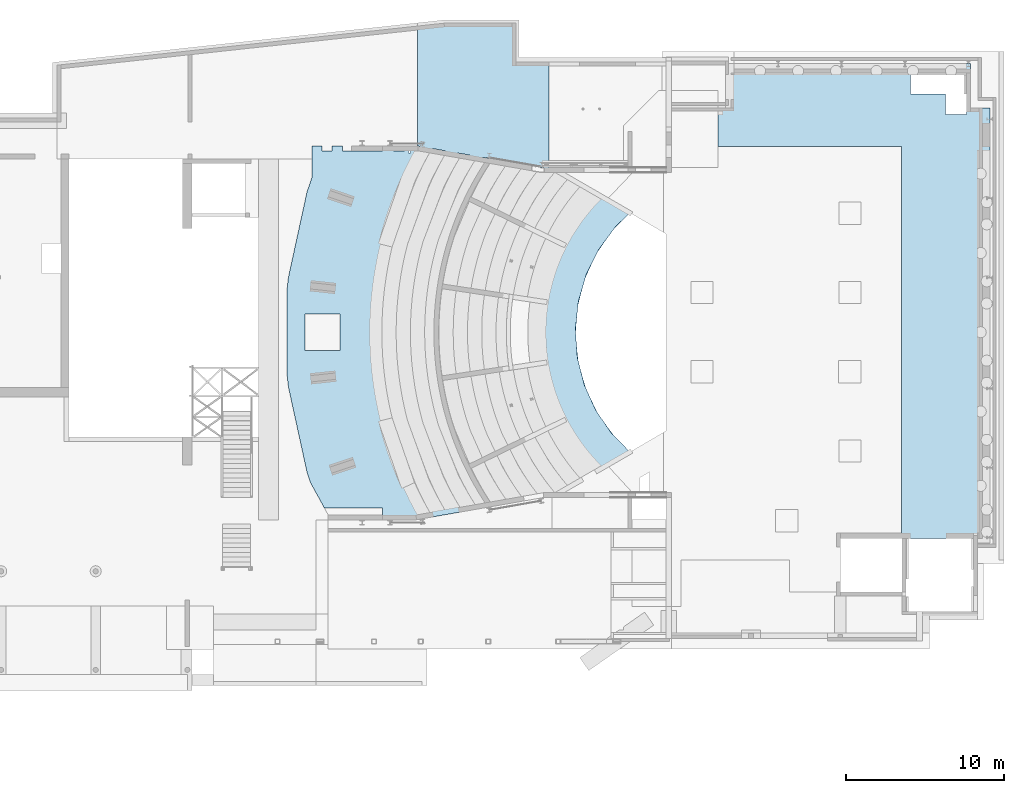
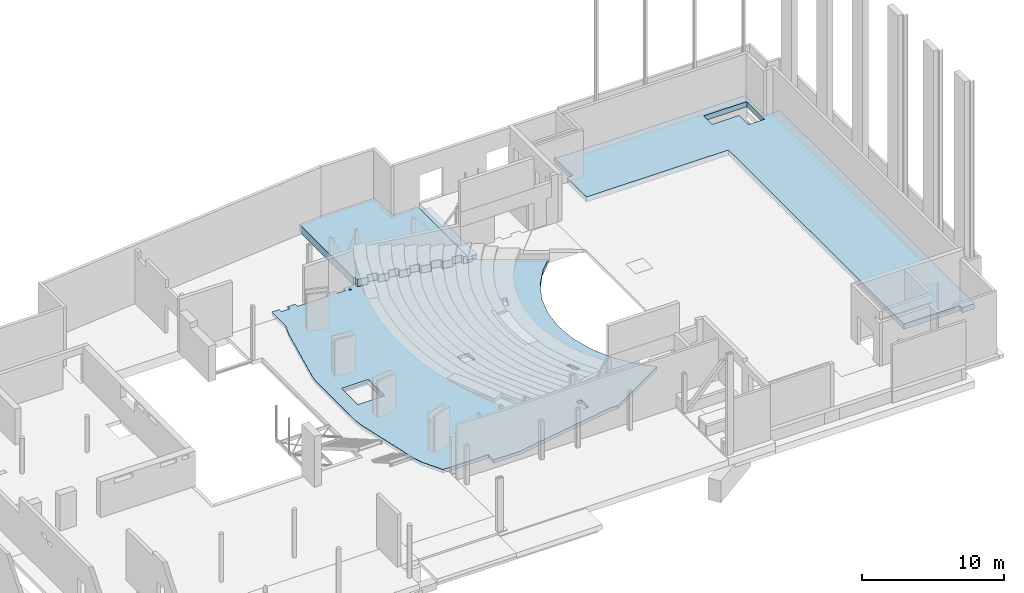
# One storey, part 32 of 34: 3 slabs.
"""IFC2X3 building model written with IfcOpenShell, lengths in millimetres."""

from ifc_helpers import new_model, entity, si_unit, converted_unit, derived_unit, direction, frame, origin, place, context, subcontext, project, spatial, faceted_brep, material, type_object, element, save


model = new_model("IFC2X3")

# Units and contexts
model_context = context("Model", 3, precision=0.01, world=origin(), true_north=direction((6.12303176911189e-17, 1.0)))
body_context = subcontext(model_context, "Body", "Model", "MODEL_VIEW")
ifc_project = project(units=[si_unit("LENGTHUNIT", "METRE", prefix="MILLI"), si_unit("AREAUNIT", "SQUARE_METRE", prefix="MILLI"), si_unit("VOLUMEUNIT", "CUBIC_METRE"), converted_unit("PLANEANGLEUNIT", "DEGREE", entity("IfcRatioMeasure", 0.0174532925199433), si_unit("PLANEANGLEUNIT", "RADIAN"), dimensions=[0, 0, 0, 0, 0, 0, 0]), si_unit("MASSUNIT", "GRAM", prefix="KILO"), derived_unit("MASSDENSITYUNIT", [(si_unit("MASSUNIT", "GRAM", prefix="KILO"), 1), (si_unit("LENGTHUNIT", "METRE"), -3)]), derived_unit("MOMENTOFINERTIAUNIT", [(si_unit("LENGTHUNIT", "METRE"), 4)]), si_unit("TIMEUNIT", "SECOND"), si_unit("FREQUENCYUNIT", "HERTZ"), si_unit("THERMODYNAMICTEMPERATUREUNIT", "DEGREE_CELSIUS"), derived_unit("THERMALTRANSMITTANCEUNIT", [(si_unit("MASSUNIT", "GRAM", prefix="KILO"), 1), (si_unit("THERMODYNAMICTEMPERATUREUNIT", "KELVIN"), -1), (si_unit("TIMEUNIT", "SECOND"), -3)]), derived_unit("VOLUMETRICFLOWRATEUNIT", [(si_unit("LENGTHUNIT", "METRE"), 3), (si_unit("TIMEUNIT", "SECOND"), -1)]), si_unit("ELECTRICCURRENTUNIT", "AMPERE"), si_unit("ELECTRICVOLTAGEUNIT", "VOLT"), si_unit("POWERUNIT", "WATT"), si_unit("FORCEUNIT", "NEWTON", prefix="KILO"), si_unit("ILLUMINANCEUNIT", "LUX"), si_unit("LUMINOUSFLUXUNIT", "LUMEN"), si_unit("LUMINOUSINTENSITYUNIT", "CANDELA"), derived_unit("USERDEFINED", [(si_unit("MASSUNIT", "GRAM", prefix="KILO"), -1), (si_unit("LENGTHUNIT", "METRE"), -2), (si_unit("TIMEUNIT", "SECOND"), 3), (si_unit("LUMINOUSFLUXUNIT", "LUMEN"), 1)]), derived_unit("LINEARVELOCITYUNIT", [(si_unit("LENGTHUNIT", "METRE"), 1), (si_unit("TIMEUNIT", "SECOND"), -1)]), si_unit("PRESSUREUNIT", "PASCAL"), derived_unit("USERDEFINED", [(si_unit("LENGTHUNIT", "METRE"), -2), (si_unit("MASSUNIT", "GRAM", prefix="KILO"), 1), (si_unit("TIMEUNIT", "SECOND"), -2)]), derived_unit("LINEARFORCEUNIT", [(si_unit("MASSUNIT", "GRAM", prefix="KILO"), 1), (si_unit("LENGTHUNIT", "METRE"), 1), (si_unit("TIMEUNIT", "SECOND"), -2), (si_unit("LENGTHUNIT", "METRE"), -1)]), derived_unit("PLANARFORCEUNIT", [(si_unit("MASSUNIT", "GRAM", prefix="KILO"), 1), (si_unit("LENGTHUNIT", "METRE"), 1), (si_unit("TIMEUNIT", "SECOND"), -2), (si_unit("LENGTHUNIT", "METRE"), -2)])], contexts=[model_context])

# Site, building, storey
site_placement = place(None, origin())
site = spatial("IfcSite", under=ifc_project, at=site_placement, Name="Theater aan de Parade", CompositionType="ELEMENT")
building_placement = place(site_placement, origin())
building = spatial("IfcBuilding", under=site, at=building_placement, Name="Theater aan de Parade", CompositionType="ELEMENT")
storey_placement = place(building_placement, frame((0.0, 0.0, 3.49116848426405e-09)))
storey = spatial("IfcBuildingStorey", under=building, at=storey_placement, Name="00 begane grond", CompositionType="ELEMENT", Elevation=3.49116848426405e-09)

# Slabs
ifc_material_1 = material(Name="00_PBT_MAT_beton t.p.g.")
slab_type_1 = type_object("IfcSlabType", Name="Floor:28_PBT_FL_beton t.p.g._d=300_bestaand", PredefinedType="FLOOR")
slab_1_placement = place(storey_placement, origin())
element("IfcSlab", 1, at=slab_1_placement, inside=storey, type_object=slab_type_1, material=ifc_material_1, Name="Floor:28_PBT_FL_beton t.p.g._d=300_bestaand", ObjectType="Floor:28_PBT_FL_beton t.p.g._d=300_bestaand", PredefinedType="FLOOR", context=body_context, shape_type="Brep", body=[
    faceted_brep([(51836.5262993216, 44185.4170051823, -90.0), (51696.0520432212, 44210.0, -90.0), (51696.0520432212, 44210.0, -60.0), (51836.5262993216, 44185.4170051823, -60.0), (53412.5750467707, 43909.6084743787, -240.0), (54200.5994204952, 43771.7042089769, -240.0), (54200.5994204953, 43771.7042089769, -60.0), (54988.6237942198, 43633.7999435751, -60.0), (54988.6237942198, 43633.7999435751, -240.0), (55776.6481679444, 43495.8956781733, -240.0), (55776.6481679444, 43495.8956781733, -60.0), (56564.6725416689, 43357.9914127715, -60.0), (56564.6725416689, 43357.9914127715, -240.0), (57352.6969153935, 43220.0871473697, -240.0), (57352.6969153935, 43220.0871473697, -60.0), (58140.7212891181, 43082.1828819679, -60.0), (58140.7212891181, 43082.1828819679, -240.0), (58928.7456628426, 42944.2786165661, -240.0), (58928.7456628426, 42944.2786165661, -60.0), (59467.48061465, 42850.0, -60.0), (59467.48061465, 42850.0, -240.0), (59467.48061465, 42850.0, -360.0), (52665.9445615, 44040.268809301, -360.0), (52624.5506730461, 44047.5127397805, -360.0), (52624.5506730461, 44047.5127397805, -90.0), (52624.5506730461, 44047.5127397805, -60.0), (53412.5750467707, 43909.6084743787, -60.0), (53360.860947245, 43614.0993342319, -240.0), (54148.8853209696, 43476.1950688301, -240.0), (54936.9096946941, 43338.2908034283, -240.0), (55724.9340684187, 43200.3865380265, -240.0), (56512.9584421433, 43062.4822726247, -240.0), (57300.9828158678, 42924.5780072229, -240.0), (58089.0071895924, 42786.6737418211, -240.0), (58877.0315633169, 42648.7694764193, -240.0), (49470.0, 43910.0, -360.0), (49470.0, 44210.0, -360.0), (50170.0, 44210.0, -360.0), (50170.0, 43910.0, -360.0), (51095.0, 43760.0, -360.0), (46625.0, 33460.0, -360.0), (44702.0506482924, 41300.3787601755, -360.0), (44749.6465032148, 41442.6272561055, -360.0), (44876.5687830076, 41821.9565785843, -360.0), (46940.0, 43910.0, -360.0), (50870.0, 43910.0, -360.0), (51095.0, 43910.0, -360.0), (50870.0, 44210.0, -360.0), (51245.0, 43910.0, -360.0), (51570.0, 44210.0, -360.0), (51570.0, 43910.0, -360.0), (51245.0, 43760.0, -360.0), (51670.0, 43910.0, -360.0), (52572.8365735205, 43752.0035996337, -360.0), (53622.0, 32900.0, -360.0), (54522.0, 32900.0, -360.0), (59607.5902851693, 36680.7200189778, -360.0), (59933.7051192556, 37530.2782070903, -360.0), (59667.0315633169, 42550.0, -360.0), (59667.0315633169, 42850.0, -360.0), (60457.031563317, 42550.0, -360.0), (60934.5766754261, 42550.0, -360.0), (60457.031563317, 42825.661140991, -360.0), (60223.1150514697, 37419.1841427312, -360.0), (63935.151319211, 38836.0526527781, -360.0), (65089.6236003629, 40151.5146063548, -360.0), (64558.3578802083, 39467.2473752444, -360.0), (65181.5644412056, 40098.4420977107, -360.0), (63432.9350228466, 38104.9083530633, -360.0), (62930.7187264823, 37373.7640533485, -360.0), (62565.2133000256, 36565.5567912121, -360.0), (62199.707873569, 35757.3495290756, -360.0), (59897.0002173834, 36569.6259546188, -360.0), (61982.3545358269, 34897.3781796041, -360.0), (61765.0011980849, 34037.4068301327, -360.0), (61702.6036431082, 33152.59061166, -360.0), (61640.2060881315, 32267.7743931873, -360.0), (54522.0, 32000.0, -360.0), (59727.5902851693, 28085.2799810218, -360.0), (61734.7175128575, 31385.8102295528, -360.0), (61829.2289375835, 30503.8460659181, -360.0), (60017.0002173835, 28196.3740453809, -360.0), (62077.6909019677, 29652.34160463, -360.0), (62326.152866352, 28800.8371433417, -360.0), (60343.1150514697, 27346.8158572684, -360.0), (62720.7878998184, 28006.4465683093, -360.0), (63115.4229332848, 27212.0559932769, -360.0), (63643.8779886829, 26499.6456832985, -360.0), (64172.333044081, 25787.23537332, -360.0), (60414.8678288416, 22040.0, -360.0), (65096.6150883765, 24742.5212041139, -360.0), (64680.4594593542, 25291.4231859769, -360.0), (65188.5858746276, 24795.6109986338, -360.0), (58528.9106579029, 23935.0, -360.0), (59667.4806146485, 22040.0, -360.0), (58528.9106579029, 22925.0, -360.0), (58118.9106579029, 22925.0, -360.0), (54635.0, 21159.3158924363, -360.0), (58118.9106579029, 23935.0, -360.0), (53622.0, 32000.0, -360.0), (52595.0, 20802.3158924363, -360.0), (49470.0, 21380.0, -360.0), (51610.3377575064, 20630.0, -360.0), (49950.3377575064, 20630.0, -360.0), (49470.0, 20630.0, -360.0), (46625.0, 31460.0, -360.0), (44706.9742068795, 23624.9063280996, -360.0), (44754.5700618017, 23482.6578321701, -360.0), (44881.4923415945, 23103.3285096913, -360.0), (44929.0881965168, 22961.0800137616, -360.0), (45797.1870618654, 21380.0, -360.0), (43529.1573722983, 29019.1174439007, -360.0), (43513.1314655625, 29168.2588878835, -360.0), (44725.0, 31460.0, -360.0), (43470.3957142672, 29565.9694051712, -360.0), (43454.3698075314, 29715.1108491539, -360.0), (43451.5192961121, 35198.3615167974, -360.0), (44725.0, 33460.0, -360.0), (43467.5452028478, 35347.5029607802, -360.0), (43510.2809541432, 35745.2134780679, -360.0), (43526.3068608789, 35894.3549220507, -360.0), (60053.7051192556, 27235.7217929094, -360.0), (45025.0, 42265.5691032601, -360.0), (46290.0, 43910.0, -360.0), (45025.0, 43400.0, -360.0), (45640.0, 43910.0, -360.0), (45025.0, 43910.0, -360.0), (45640.0, 44210.0, -360.0), (45025.0, 44210.0, -360.0), (46940.0, 44210.0, -360.0), (46290.0, 44210.0, -360.0), (65089.6236003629, 40151.5146063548, -60.0), (64166.2220169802, 39105.8855614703, -60.0), (64673.8932290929, 39602.1638295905, -60.0), (62780.2240844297, 41484.6068931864, -60.0), (65181.5644412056, 40098.4420977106, -60.0), (63638.4209376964, 38392.9906070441, -60.0), (63110.6198584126, 37680.095652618, -60.0), (60223.1150514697, 37419.1841427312, -60.0), (62109.0241762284, 41872.0545454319, -60.0), (59933.7051192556, 37530.2782070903, -60.0), (60334.4956098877, 42550.0, -60.0), (60457.031563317, 42550.0, -60.0), (60934.5766754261, 42550.0, -60.0), (60457.031563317, 42825.661140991, -60.0), (59667.0315633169, 42550.0, -60.0), (58877.031563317, 42648.7694764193, -60.0), (59667.0315633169, 42850.0, -60.0), (58089.0071895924, 42786.6737418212, -60.0), (57300.9828158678, 42924.5780072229, -60.0), (56512.9584421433, 43062.4822726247, -60.0), (59607.5902851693, 36680.7200189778, -60.0), (55724.9340684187, 43200.3865380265, -60.0), (54522.0, 32900.0, -60.0), (54936.9096946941, 43338.2908034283, -60.0), (53622.0, 32900.0, -60.0), (54148.8853209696, 43476.1950688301, -60.0), (53360.860947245, 43614.0993342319, -60.0), (52572.8365735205, 43752.0035996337, -60.0), (51245.0, 43760.0, -60.0), (51784.8121997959, 43889.9078650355, -60.0), (51245.0, 43910.0, -60.0), (51665.9445615, 44210.0, -60.0), (51245.0, 44210.0, -60.0), (51095.0, 43910.0, -60.0), (51095.0, 44210.0, -60.0), (50870.0, 43910.0, -60.0), (50870.0, 44210.0, -60.0), (51095.0, 43760.0, -60.0), (50170.0, 43910.0, -60.0), (49470.0, 43910.0, -60.0), (50170.0, 44210.0, -60.0), (49470.0, 44210.0, -60.0), (46775.0, 33610.0, -60.0), (44702.0506482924, 41300.3787601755, -60.0), (46940.0, 43910.0, -60.0), (45025.0, 42265.5691032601, -60.0), (46290.0, 43910.0, -60.0), (46940.0, 44210.0, -60.0), (46290.0, 44210.0, -60.0), (45640.0, 43910.0, -60.0), (45025.0, 44210.0, -60.0), (45640.0, 44210.0, -60.0), (43526.3068608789, 35894.3549220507, -60.0), (44575.0, 33610.0, -60.0), (43451.5192961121, 35198.3615167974, -60.0), (44575.0, 31310.0, -60.0), (43454.3698075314, 29715.1108491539, -60.0), (43529.1573722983, 29019.1174439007, -60.0), (46775.0, 31310.0, -60.0), (44706.9742068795, 23624.9063280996, -60.0), (49470.0, 21380.0, -60.0), (44929.0881965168, 22961.0800137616, -60.0), (45797.1870618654, 21380.0, -60.0), (53622.0, 32000.0, -60.0), (52693.6372231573, 20819.5774064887, -60.0), (51610.3377575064, 20630.0, -60.0), (49470.0, 20930.0, -60.0), (49470.0, 20630.0, -60.0), (54289.3865799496, 21098.8335439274, -60.0), (58118.9106579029, 23935.0, -60.0), (58118.9106579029, 22925.0, -60.0), (59667.4806146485, 22040.0, -60.0), (58528.9106579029, 22925.0, -60.0), (58528.9106579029, 23935.0, -60.0), (60934.5766754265, 22340.0, -60.0), (60414.8678288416, 22040.0, -60.0), (62162.5807199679, 23048.8607703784, -60.0), (60053.7051192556, 27235.7217929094, -60.0), (60343.1150514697, 27346.8158572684, -60.0), (62985.3418977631, 23523.7966021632, -60.0), (63941.0148275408, 26056.856123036, -60.0), (65096.6150883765, 24742.5212041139, -60.0), (64252.9075893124, 25741.5448419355, -60.0), (64564.8003510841, 25426.233560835, -60.0), (65188.5858746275, 24795.6109986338, -60.0), (63438.1277975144, 26787.5392488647, -60.0), (62935.240767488, 27518.2223746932, -60.0), (62568.9938318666, 28326.0938851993, -60.0), (62202.7468962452, 29133.9653957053, -60.0), (60017.0002173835, 28196.3740453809, -60.0), (61984.6044848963, 29993.736925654, -60.0), (61766.4620735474, 30853.5084556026, -60.0), (59727.5902851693, 28085.2799810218, -60.0), (54522.0, 32000.0, -60.0), (61703.2525804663, 31738.2670415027, -60.0), (61640.0430873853, 32623.0256274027, -60.0), (59897.0002173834, 36569.6259546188, -60.0), (61733.745125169, 33505.076149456, -60.0), (61827.4471629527, 34387.1266715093, -60.0), (62075.1276273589, 35238.8587789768, -60.0), (62322.808091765, 36090.5908864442, -60.0), (62716.7139750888, 36885.3432695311, -60.0), (60457.031563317, 42825.661140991, -240.0), (46625.0, 31460.0, -210.0), (44725.0, 31460.0, -210.0), (44575.0, 31310.0, -210.0), (46775.0, 31310.0, -210.0), (46625.0, 33460.0, -210.0), (44725.0, 33460.0, -210.0), (44575.0, 33610.0, -210.0), (46775.0, 33610.0, -210.0), (45025.0, 44210.0, -90.0), (51665.9445615, 44210.0, -90.0), (51570.0, 44210.0, -90.0), (50870.0, 44210.0, -90.0), (45640.0, 44210.0, -90.0), (46290.0, 44210.0, -90.0), (46940.0, 44210.0, -90.0), (49470.0, 44210.0, -90.0), (50170.0, 44210.0, -90.0), (51670.0, 43910.0, -90.0), (51570.0, 43910.0, -90.0), (51784.8121997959, 43889.9078650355, -90.0), (45640.0, 43910.0, -90.0), (46290.0, 43910.0, -90.0), (46940.0, 43910.0, -90.0), (49470.0, 43910.0, -90.0), (50170.0, 43910.0, -90.0), (50870.0, 43910.0, -90.0), (59667.0315633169, 42850.0, -240.0), (59667.0315633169, 42550.0, -240.0), (60457.031563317, 42550.0, -240.0), (52572.8365735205, 43752.0035996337, -90.0)], [[[0, 1, 2, 3]], [[4, 5, 6, 7, 8, 9, 10, 11, 12, 13, 14, 15, 16, 17, 18, 19, 20, 21, 22, 23, 24, 25, 26]], [[27, 28, 5, 4]], [[8, 29, 30, 9]], [[12, 31, 32, 13]], [[33, 34, 17, 16]], [[35, 36, 37]], [[37, 38, 35]], [[35, 38, 39]], [[35, 39, 40]], [[41, 35, 40]], [[42, 35, 41]], [[43, 35, 42]], [[44, 35, 43]], [[45, 39, 38]], [[45, 46, 39]], [[47, 46, 45]], [[46, 47, 48]], [[47, 49, 48]], [[50, 48, 49]], [[48, 50, 51]], [[51, 50, 52]], [[52, 53, 51]], [[53, 54, 51]], [[54, 53, 55]], [[55, 53, 56]], [[57, 56, 53]], [[53, 58, 57]], [[21, 58, 53]], [[53, 22, 21]], [[23, 22, 53]], [[58, 21, 59]], [[57, 58, 60]], [[60, 61, 57]], [[62, 61, 60]], [[61, 63, 57]], [[61, 64, 63]], [[64, 61, 65]], [[65, 66, 64]], [[65, 67, 66]], [[63, 64, 68]], [[63, 68, 69]], [[63, 69, 70]], [[63, 70, 71]], [[71, 72, 63]], [[72, 71, 73]], [[72, 73, 74]], [[56, 74, 75]], [[72, 74, 56]], [[55, 56, 76]], [[56, 75, 76]], [[55, 76, 77]], [[76, 78, 77]], [[78, 76, 79]], [[78, 79, 80]], [[80, 81, 78]], [[81, 80, 82]], [[81, 82, 83]], [[81, 83, 84]], [[84, 83, 85]], [[84, 85, 86]], [[84, 86, 87]], [[84, 87, 88]], [[89, 84, 88]], [[89, 88, 90]], [[90, 88, 91]], [[90, 91, 92]], [[93, 84, 89]], [[94, 93, 89]], [[93, 94, 95]], [[95, 94, 96]], [[96, 94, 97]], [[98, 96, 97]], [[97, 99, 98]], [[99, 97, 100]], [[99, 100, 101]], [[101, 100, 102]], [[102, 103, 101]], [[103, 104, 101]], [[105, 99, 101]], [[105, 101, 106]], [[106, 101, 107]], [[107, 101, 108]], [[109, 108, 101]], [[109, 101, 110]], [[111, 105, 106]], [[112, 105, 111]], [[112, 113, 105]], [[114, 113, 112]], [[115, 113, 114]], [[116, 113, 115]], [[113, 116, 117]], [[118, 117, 116]], [[118, 119, 117]], [[119, 120, 40]], [[117, 119, 40]], [[54, 40, 39]], [[41, 40, 120]], [[54, 105, 40]], [[54, 39, 51]], [[99, 105, 54]], [[77, 98, 99]], [[98, 77, 78]], [[121, 98, 78]], [[93, 98, 121]], [[93, 121, 84]], [[122, 44, 43]], [[122, 123, 44]], [[122, 124, 123]], [[124, 125, 123]], [[124, 126, 125]], [[127, 125, 126]], [[128, 127, 126]], [[123, 129, 44]], [[129, 123, 130]], [[131, 132, 133]], [[132, 131, 134]], [[131, 133, 135]], [[134, 136, 132]], [[134, 137, 136]], [[137, 134, 138]], [[138, 134, 139]], [[140, 138, 139]], [[139, 141, 140]], [[139, 142, 141]], [[139, 143, 142]], [[142, 143, 144]], [[140, 141, 145]], [[145, 146, 140]], [[145, 19, 146]], [[19, 145, 147]], [[18, 146, 19]], [[140, 146, 148]], [[148, 149, 140]], [[149, 148, 14]], [[14, 148, 15]], [[149, 150, 140]], [[140, 150, 151]], [[150, 152, 151]], [[152, 150, 10]], [[150, 11, 10]], [[151, 152, 153]], [[152, 154, 153]], [[154, 155, 153]], [[154, 156, 155]], [[7, 156, 154]], [[7, 6, 156]], [[156, 157, 155]], [[157, 158, 155]], [[26, 158, 157]], [[26, 25, 158]], [[159, 155, 158]], [[160, 159, 158]], [[160, 161, 159]], [[160, 162, 161]], [[162, 160, 2]], [[160, 3, 2]], [[162, 163, 161]], [[163, 164, 161]], [[163, 165, 164]], [[165, 166, 164]], [[166, 165, 167]], [[166, 168, 164]], [[169, 168, 166]], [[168, 169, 170]], [[170, 169, 171]], [[172, 170, 171]], [[168, 170, 173]], [[173, 170, 174]], [[170, 175, 174]], [[174, 175, 176]], [[175, 177, 176]], [[178, 177, 175]], [[178, 179, 177]], [[177, 180, 176]], [[181, 176, 180]], [[180, 182, 181]], [[174, 183, 173]], [[173, 183, 184]], [[183, 185, 184]], [[186, 184, 185]], [[187, 186, 185]], [[187, 188, 186]], [[189, 186, 188]], [[189, 188, 190]], [[190, 191, 189]], [[191, 190, 192]], [[191, 192, 193]], [[191, 194, 189]], [[194, 191, 195]], [[191, 196, 195]], [[196, 191, 197]], [[197, 198, 196]], [[194, 195, 199]], [[194, 199, 200]], [[200, 199, 201]], [[202, 201, 199]], [[201, 202, 203]], [[204, 203, 202]], [[204, 202, 205]], [[206, 205, 202]], [[205, 207, 204]], [[204, 207, 208]], [[207, 209, 208]], [[210, 209, 207]], [[211, 209, 210]], [[210, 212, 211]], [[212, 213, 211]], [[212, 214, 213]], [[212, 215, 214]], [[209, 211, 216]], [[209, 216, 217]], [[209, 217, 218]], [[209, 218, 219]], [[209, 219, 220]], [[220, 219, 221]], [[220, 221, 222]], [[220, 222, 223]], [[223, 222, 224]], [[224, 222, 225]], [[224, 225, 226]], [[227, 151, 226]], [[227, 226, 228]], [[151, 153, 226]], [[153, 224, 226]], [[227, 228, 229]], [[227, 229, 230]], [[227, 230, 231]], [[138, 231, 232]], [[227, 231, 138]], [[138, 232, 137]], [[223, 224, 200]], [[194, 200, 224]], [[200, 208, 223]], [[208, 200, 204]], [[194, 155, 189]], [[189, 155, 173]], [[168, 173, 155]], [[159, 168, 155]], [[62, 233, 144, 143, 139, 134, 131, 135, 67, 65, 61]], [[210, 207, 205, 206, 89, 90, 92, 215, 212]], [[94, 89, 206, 202]], [[234, 235, 236]], [[236, 237, 234]], [[238, 234, 237]], [[239, 236, 235]], [[238, 240, 239]], [[236, 239, 240]], [[240, 238, 241]], [[237, 241, 238]], [[236, 240, 184, 186]], [[237, 236, 186, 189]], [[237, 189, 173, 241]], [[240, 241, 173, 184]], [[113, 117, 239, 235]], [[113, 235, 234, 105]], [[105, 234, 238, 40]], [[117, 40, 238, 239]], [[54, 55, 153, 155]], [[54, 155, 194, 99]], [[77, 99, 194, 224]], [[77, 224, 153, 55]], [[128, 126, 124, 122, 176, 181, 242]], [[163, 162, 2, 1, 243, 244, 49, 47, 245, 167, 165]], [[127, 128, 242, 181, 182, 246]], [[129, 130, 247, 179, 178, 248]], [[37, 36, 249, 172, 171, 250]], [[48, 161, 164, 46]], [[39, 46, 164, 168]], [[39, 168, 159, 51]], [[48, 51, 159, 161]], [[97, 94, 202, 199, 195, 196, 102, 100]], [[103, 102, 196, 198, 104]], [[98, 93, 204, 200]], [[96, 98, 200, 201]], [[95, 96, 201, 203]], [[93, 95, 203, 204]], [[251, 252, 244, 243, 1, 0, 253]], [[125, 127, 246, 182, 180, 254]], [[123, 125, 254, 180, 177, 255]], [[35, 44, 256, 175, 170, 257]], [[251, 52, 50, 252]], [[45, 38, 258, 169, 166, 259]], [[130, 123, 255, 177, 179, 247]], [[44, 129, 248, 178, 175, 256]], [[36, 35, 257, 170, 172, 249]], [[101, 104, 198, 197, 191]], [[59, 21, 20, 19, 147, 260]], [[261, 58, 59, 260, 147, 145]], [[262, 60, 58, 261, 145, 141, 142]], [[233, 62, 60, 262, 142, 144]], [[111, 106, 190, 188]], [[115, 114, 112, 111, 188, 187]], [[116, 115, 187, 185]], [[120, 119, 118, 116, 185, 183]], [[41, 120, 183, 174]], [[42, 41, 174, 176, 122, 43]], [[67, 135, 133]], [[71, 70, 231]], [[133, 132, 66]], [[222, 80, 79]], [[132, 136, 64]], [[87, 211, 88]], [[231, 230, 71]], [[137, 232, 69]], [[136, 137, 68]], [[70, 232, 231]], [[132, 64, 66]], [[70, 69, 232]], [[230, 229, 73]], [[73, 71, 230]], [[137, 69, 68]], [[76, 75, 226]], [[68, 64, 136]], [[75, 74, 228]], [[133, 66, 67]], [[222, 221, 80]], [[214, 91, 88]], [[217, 216, 86]], [[85, 83, 218]], [[213, 214, 88, 211]], [[219, 218, 83]], [[217, 86, 85]], [[92, 91, 215]], [[226, 225, 76]], [[221, 219, 82]], [[228, 226, 75]], [[225, 222, 79]], [[218, 217, 85]], [[216, 211, 87]], [[219, 83, 82]], [[82, 80, 221]], [[214, 215, 91]], [[74, 229, 228]], [[87, 86, 216]], [[79, 76, 225]], [[229, 74, 73]], [[24, 23, 53, 263, 158, 25]], [[253, 160, 158, 263, 53, 52, 251]], [[148, 146, 34, 33]], [[150, 149, 32, 31]], [[154, 152, 30, 29]], [[156, 28, 27, 157]], [[146, 18, 17, 34]], [[148, 33, 16, 15]], [[149, 14, 13, 32]], [[150, 31, 12, 11]], [[152, 10, 9, 30]], [[154, 29, 8, 7]], [[156, 6, 5, 28]], [[157, 27, 4, 26]], [[160, 253, 0, 3]], [[252, 50, 49, 244]], [[38, 37, 250, 171, 169, 258]], [[47, 45, 259, 166, 167, 245]], [[110, 101, 191, 193]], [[109, 110, 193, 192]], [[106, 107, 108, 109, 192, 190]], [[121, 78, 223, 208]], [[84, 121, 208, 209]], [[81, 84, 209, 220]], [[78, 81, 220, 223]], [[56, 57, 140, 151]], [[72, 56, 151, 227]], [[63, 72, 227, 138]], [[57, 63, 138, 140]]]),
])
ifc_material_2 = material(Name="00_PBT_MAT_beton t.p.g._C30/37")
slab_type_2 = type_object("IfcSlabType", Name="Floor:28_PBT_FL_beton t.p.g._d=450_C30/37", PredefinedType="FLOOR")
slab_2_placement = place(storey_placement, origin())
element("IfcSlab", 2, at=slab_2_placement, inside=storey, type_object=slab_type_2, material=ifc_material_2, Name="Floor:28_PBT_FL_beton t.p.g._d=450_C30/37", ObjectType="Floor:28_PBT_FL_beton t.p.g._d=450_C30/37", PredefinedType="FLOOR", context=body_context, shape_type="Brep", body=[
    faceted_brep([(71307.1329342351, 49412.0, 430.0), (71657.0, 49412.0, 430.0), (86305.1683175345, 49412.0, 430.0), (86555.1683175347, 49412.0, 430.0), (86555.1683175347, 46611.8723406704, 430.0), (87796.0, 46611.8723406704, 430.0), (87796.0, 43961.8723406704, 430.0), (87796.0, 19149.9999114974, 430.0), (87016.0, 19149.9999114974, 430.0), (86766.0, 19149.9999114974, 430.0), (86766.0, 19460.0002435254, 430.0), (85816.00089436, 19460.0002435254, 430.0), (82200.0, 19460.0002435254, 430.0), (82200.0, 19810.0002435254, 430.0), (82200.0, 44185.0, 430.0), (71340.0, 44185.0, 430.0), (70640.0, 44185.0, 430.0), (70640.0, 44535.0, 430.0), (70640.0, 46176.8723406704, 430.0), (70640.0, 46411.870955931, 430.0), (70640.0, 46961.8723406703, 430.0), (71107.0, 46961.8723406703, 430.0), (71107.0, 49412.0013854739, 430.0), (71107.0, 49562.0, 430.0), (71307.1321785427, 49562.0, 430.0), (82780.1683175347, 48697.0, 430.0), (82780.1683175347, 47502.0, 430.0), (84980.1683175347, 47502.0, 430.0), (84980.1592762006, 45768.2234956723, 430.0), (86305.1683175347, 45768.2234956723, 430.0), (86305.1683175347, 46611.8723406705, 430.0), (86305.1683175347, 48697.0, 430.0), (86555.1683175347, 49412.0, 880.0), (71307.1329342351, 49412.0, 880.0), (71307.1321785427, 49562.0, 880.0), (71107.0, 49562.0, 880.0), (71107.0, 48716.8713330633, 880.0), (71107.0, 47136.8713330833, 880.0), (71107.0, 46961.8723406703, 880.0), (70640.0, 46961.8723406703, 880.0), (70640.0, 44185.0, 880.0), (82200.0, 44185.0, 880.0), (82200.0, 19460.0002435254, 880.0), (82250.0084217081, 19460.0002435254, 880.0), (82500.0084217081, 19460.0002435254, 880.0), (82791.00089436, 19460.0002435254, 880.0), (85016.00089436, 19460.0002435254, 880.0), (86766.0, 19460.0002435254, 880.0), (86766.0, 19149.9999114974, 880.0), (87016.0, 19149.9999114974, 880.0), (87796.0, 19149.9999114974, 880.0), (87796.0, 19760.0, 880.0), (87796.0, 21260.0, 880.0), (87796.0, 24160.0, 880.0), (87796.0, 25660.0, 880.0), (87796.0, 29160.0, 880.0), (87796.0, 30660.0, 880.0), (87796.0, 34160.0, 880.0), (87796.0, 35660.0, 880.0), (87796.0, 39160.0, 880.0), (87796.0, 40660.0, 880.0), (87796.0, 44160.0, 880.0), (87796.0, 45660.0, 880.0), (87796.0, 46611.8723406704, 880.0), (87326.0, 46611.8723406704, 880.0), (87096.0, 46611.8723406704, 880.0), (86555.1683175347, 46611.8723406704, 880.0), (86555.1683175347, 48822.0, 880.0), (86555.1683175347, 49072.0, 880.0), (86305.1683175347, 46194.0, 880.0), (84980.1683175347, 46194.0, 880.0), (84980.1683175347, 47502.0, 880.0), (82780.1683175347, 47502.0, 880.0), (82780.1683175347, 48697.0, 880.0), (86305.1683175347, 48697.0, 880.0), (86305.1683175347, 46361.8723406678, 880.0), (82200.0, 19460.0002435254, 610.0), (82200.0, 44185.0, 610.0), (70640.0, 44185.0, 610.0), (70640.0, 46961.8723406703, 610.0), (71107.0, 49562.0, 460.0), (84980.1683175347, 46194.0, 720.0), (86305.1683175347, 46194.0, 720.0), (84980.1683175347, 45768.2234956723, 430.0)], [[[0, 1, 2, 3, 4, 5, 6, 7, 8, 9, 10, 11, 12, 13, 14, 15, 16, 17, 18, 19, 20, 21, 22, 23, 24], [25, 26, 27, 28, 29, 30, 31]], [[32, 33, 34, 35, 36, 37, 38, 39, 40, 41, 42, 43, 44, 45, 46, 47, 48, 49, 50, 51, 52, 53, 54, 55, 56, 57, 58, 59, 60, 61, 62, 63, 64, 65, 66, 67, 68], [69, 70, 71, 72, 73, 74, 75]], [[3, 2, 1, 0, 33, 32]], [[14, 13, 12, 76, 42, 41, 77]], [[4, 3, 32, 68, 67, 66]], [[5, 4, 66, 65, 64, 63]], [[7, 6, 5, 63, 62, 61, 60, 59, 58, 57, 56, 55, 54, 53, 52, 51, 50]], [[16, 15, 14, 77, 41, 40, 78]], [[20, 19, 18, 17, 16, 78, 40, 39, 79]], [[21, 20, 79, 39, 38]], [[23, 22, 21, 38, 37, 36, 35, 80]], [[10, 9, 48, 47]], [[12, 11, 10, 47, 46, 45, 44, 43, 42, 76]], [[9, 8, 7, 50, 49, 48]], [[24, 23, 80, 35, 34]], [[0, 24, 34, 33]], [[31, 74, 73, 25]], [[27, 71, 70, 81, 28]], [[70, 69, 82, 81]], [[74, 31, 30, 29, 82, 69, 75]], [[72, 26, 25, 73]], [[26, 72, 71, 27]], [[82, 29, 83, 81]]]),
])
slab_type_3 = type_object("IfcSlabType", Name="Foundation Slab:13_PBT_FS_beton t.p.g._d=800_C30/37", PredefinedType="BASESLAB")
slab_3_placement = place(storey_placement, origin())
element("IfcSlab", 3, at=slab_3_placement, inside=storey, type_object=slab_type_3, material=ifc_material_2, Name="Foundation Slab:13_PBT_FS_beton t.p.g._d=800_C30/37", ObjectType="Foundation Slab:13_PBT_FS_beton t.p.g._d=800_C30/37", PredefinedType="BASESLAB", context=body_context, shape_type="Brep", body=[
    faceted_brep([(59467.48061465, 42850.0, -240.0), (58928.7456628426, 42944.2786165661, -240.0), (58877.0315633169, 42648.7694764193, -240.0), (58089.0071895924, 42786.6737418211, -240.0), (58140.7212891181, 43082.1828819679, -240.0), (57352.6969153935, 43220.0871473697, -240.0), (57300.9828158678, 42924.5780072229, -240.0), (56512.9584421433, 43062.4822726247, -240.0), (56564.6725416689, 43357.9914127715, -240.0), (55776.6481679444, 43495.8956781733, -240.0), (55724.9340684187, 43200.3865380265, -240.0), (54936.9096946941, 43338.2908034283, -240.0), (54988.6237942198, 43633.7999435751, -240.0), (54200.5994204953, 43771.7042089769, -240.0), (54148.8853209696, 43476.1950688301, -240.0), (53360.860947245, 43614.0993342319, -240.0), (53412.5750467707, 43909.6084743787, -240.0), (52665.9445615, 44040.268809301, -240.0), (52665.9445615, 51885.4073054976, -240.0), (53358.1694352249, 51960.519112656, -240.0), (57887.0315633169, 51960.519112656, -240.0), (57887.0315633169, 49511.9979908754, -240.0), (60355.8778278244, 49511.9979908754, -240.0), (60964.8822564, 49511.9979908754, -240.0), (60964.8822564, 48736.9586013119, -240.0), (60964.8822564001, 42850.0, -240.0), (60457.031563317, 42850.0, -240.0), (60457.031563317, 42550.0, -240.0), (59667.0315633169, 42550.0, -240.0), (59667.0315633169, 42850.0, -240.0), (58928.7456628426, 42944.2786165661, 560.0), (59467.48061465, 42850.0, 560.0), (59667.0315633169, 42850.0, 560.0), (59667.0315633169, 42550.0, 560.0), (59964.8822564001, 42550.0, 560.0), (59964.8822564, 49261.9979908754, 560.0), (59964.8822564, 49511.9979908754, 560.0), (57887.0315633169, 49511.9979908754, 560.0), (57887.0315633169, 51960.519112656, 560.0), (57637.0315633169, 51960.519112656, 560.0), (53358.1694352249, 51960.519112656, 560.0), (51665.9445615, 51776.8994924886, 560.0), (51665.9445615, 51525.4320560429, 560.0), (51665.9445615, 44210.0, 560.0), (51696.0520432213, 44210.0, 560.0), (51836.5262993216, 44185.4170051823, 560.0), (51784.8121997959, 43889.9078650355, 560.0), (52572.8365735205, 43752.0035996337, 560.0), (52624.5506730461, 44047.5127397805, 560.0), (53412.5750467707, 43909.6084743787, 560.0), (53360.860947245, 43614.0993342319, 560.0), (54148.8853209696, 43476.1950688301, 560.0), (54200.5994204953, 43771.7042089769, 560.0), (54988.6237942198, 43633.7999435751, 560.0), (54936.9096946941, 43338.2908034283, 560.0), (55724.9340684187, 43200.3865380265, 560.0), (55776.6481679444, 43495.8956781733, 560.0), (56564.6725416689, 43357.9914127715, 560.0), (56512.9584421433, 43062.4822726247, 560.0), (57300.9828158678, 42924.5780072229, 560.0), (57352.6969153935, 43220.0871473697, 560.0), (58140.7212891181, 43082.1828819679, 560.0), (58089.0071895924, 42786.6737418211, 560.0), (58877.0315633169, 42648.7694764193, 560.0), (59467.48061465, 42850.0, -60.0), (58928.7456628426, 42944.2786165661, -60.0), (58877.0315633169, 42648.7694764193, -60.0), (58089.0071895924, 42786.6737418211, -60.0), (58140.7212891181, 43082.1828819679, -60.0), (57352.6969153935, 43220.0871473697, -60.0), (51665.9445615, 44210.0, -90.0), (51696.0520432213, 44210.0, -90.0), (51696.0520432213, 44210.0, -60.0), (51665.9445615, 51776.8994924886, 460.0), (51665.9445615, 51776.8994924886, 160.0), (51665.9445615, 51776.8994924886, -90.0), (51665.9445615, 51525.4320560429, -90.0), (53358.1694352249, 51960.519112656, 460.0), (53358.1694352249, 51960.519112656, 160.0), (52665.9445615, 51885.4073054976, -90.0), (57887.0315633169, 51960.519112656, 460.0), (57887.0315633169, 51960.519112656, 160.0), (57887.0315633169, 49511.9979908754, 460.0), (57887.0315633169, 49511.9979908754, 160.0), (59964.8822564, 49511.9979908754, 160.0), (60355.8778278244, 49511.9979908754, 160.0), (60964.8822564, 49511.9979908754, 160.0), (60457.031563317, 42550.0, -60.0), (60457.031563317, 42550.0, 160.0), (59964.8822564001, 42550.0, 160.0), (59667.0315633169, 42550.0, -60.0), (59667.0315633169, 42850.0, -60.0), (57300.9828158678, 42924.5780072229, -60.0), (56512.9584421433, 43062.4822726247, -60.0), (56564.6725416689, 43357.9914127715, -60.0), (55776.6481679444, 43495.8956781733, -60.0), (55724.9340684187, 43200.3865380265, -60.0), (54936.9096946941, 43338.2908034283, -60.0), (54988.6237942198, 43633.7999435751, -60.0), (54200.5994204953, 43771.7042089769, -60.0), (54148.8853209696, 43476.1950688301, -60.0), (53360.860947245, 43614.0993342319, -60.0), (52624.5506730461, 44047.5127397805, -60.0), (52624.5506730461, 44047.5127397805, -90.0), (52665.9445615, 44040.268809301, -90.0), (53412.5750467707, 43909.6084743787, -60.0), (51784.8121997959, 43889.9078650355, -60.0), (51784.8121997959, 43889.9078650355, -90.0), (52572.8365735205, 43752.0035996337, -90.0), (52572.8365735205, 43752.0035996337, -60.0), (51836.5262993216, 44185.4170051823, -90.0), (51836.5262993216, 44185.4170051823, -60.0), (60964.8822564, 48736.9586013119, 160.0), (60964.8822564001, 42850.0, 160.0), (60457.031563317, 42850.0, 160.0)], [[[0, 1, 2, 3, 4, 5, 6, 7, 8, 9, 10, 11, 12, 13, 14, 15, 16, 17, 18, 19, 20, 21, 22, 23, 24, 25, 26, 27, 28, 29]], [[30, 31, 32, 33, 34, 35, 36, 37, 38, 39, 40, 41, 42, 43, 44, 45, 46, 47, 48, 49, 50, 51, 52, 53, 54, 55, 56, 57, 58, 59, 60, 61, 62, 63]], [[1, 0, 64, 31, 30, 65]], [[2, 1, 65, 30, 63, 66]], [[3, 2, 66, 63, 62, 67]], [[5, 4, 68, 61, 60, 69]], [[44, 43, 70, 71, 72]], [[43, 42, 41, 73, 74, 75, 76, 70]], [[41, 40, 77, 78, 19, 18, 79, 75, 74, 73]], [[20, 19, 78, 77, 40, 39, 38, 80, 81]], [[21, 20, 81, 80, 38, 37, 82, 83]], [[23, 22, 21, 83, 82, 37, 36, 84, 85, 86]], [[28, 27, 87, 88, 89, 34, 33, 90]], [[29, 28, 90, 33, 32, 91]], [[0, 29, 91, 32, 31, 64]], [[7, 6, 92, 59, 58, 93]], [[9, 8, 94, 57, 56, 95]], [[11, 10, 96, 55, 54, 97]], [[13, 12, 98, 53, 52, 99]], [[15, 14, 100, 51, 50, 101]], [[49, 48, 102, 103, 104, 17, 16, 105]], [[47, 46, 106, 107, 108, 109]], [[45, 44, 72, 71, 110, 111]], [[4, 3, 67, 62, 61, 68]], [[6, 5, 69, 60, 59, 92]], [[8, 7, 93, 58, 57, 94]], [[10, 9, 95, 56, 55, 96]], [[12, 11, 97, 54, 53, 98]], [[14, 13, 99, 52, 51, 100]], [[16, 15, 101, 50, 49, 105]], [[48, 47, 109, 108, 103, 102]], [[46, 45, 111, 110, 107, 106]], [[25, 24, 23, 86, 112, 113]], [[79, 104, 103, 108, 107, 110, 71, 70, 76, 75]], [[104, 79, 18, 17]], [[84, 89, 88, 114, 113, 112, 86, 85]], [[89, 84, 36, 35, 34]], [[26, 25, 113, 114]], [[27, 26, 114, 88, 87]]]),
])

save(model, "model.ifc")
